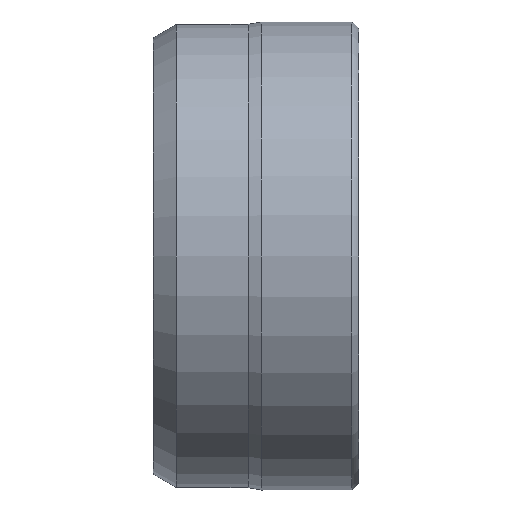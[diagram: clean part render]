
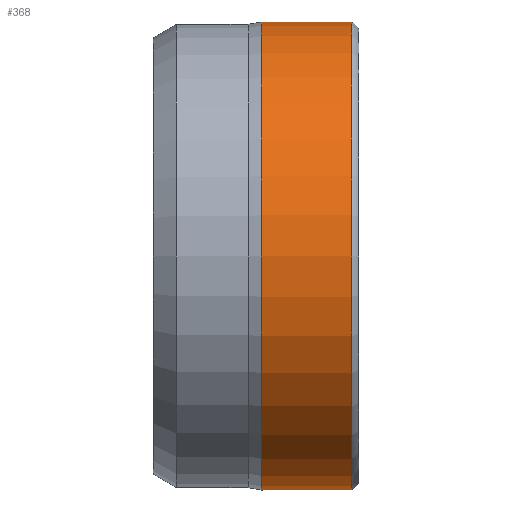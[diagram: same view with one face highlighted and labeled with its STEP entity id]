
A CAD part, left-side view. The second image highlights one B-rep face of the part: STEP entity #368.
In plain terms, the highlighted cylindrical face has radius 10 mm (diameter 20 mm), a partial arc.
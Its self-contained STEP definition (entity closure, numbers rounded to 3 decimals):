
#13 = DIRECTION ( 'NONE',  ( 0., -1., 0. ) ) ;
#33 = EDGE_CURVE ( 'NONE', #125, #258, #119, .T. ) ;
#70 = CARTESIAN_POINT ( 'NONE',  ( 0., 0.313, 0. ) ) ;
#72 = CARTESIAN_POINT ( 'NONE',  ( 0., 4.167, 10. ) ) ;
#79 = CARTESIAN_POINT ( 'NONE',  ( 0., -0.678, 0. ) ) ;
#119 = CIRCLE ( 'NONE', #532, 10. ) ;
#123 = CARTESIAN_POINT ( 'NONE',  ( 0., -0.678, 10. ) ) ;
#125 = VERTEX_POINT ( 'NONE', #500 ) ;
#190 = EDGE_CURVE ( 'NONE', #754, #258, #890, .T. ) ;
#201 = EDGE_CURVE ( 'NONE', #827, #125, #256, .T. ) ;
#230 = CIRCLE ( 'NONE', #271, 10. ) ;
#256 = LINE ( 'NONE', #123, #1007 ) ;
#258 = VERTEX_POINT ( 'NONE', #477 ) ;
#260 = ORIENTED_EDGE ( 'NONE', *, *, #611, .T. ) ;
#271 = AXIS2_PLACEMENT_3D ( 'NONE', #671, #580, #461 ) ;
#360 = CARTESIAN_POINT ( 'NONE',  ( 0., 4.167, -10. ) ) ;
#368 = ADVANCED_FACE ( 'NONE', ( #657 ), #891, .T. ) ;
#461 = DIRECTION ( 'NONE',  ( 0., 0., -1. ) ) ;
#477 = CARTESIAN_POINT ( 'NONE',  ( 0., 0.313, -10. ) ) ;
#500 = CARTESIAN_POINT ( 'NONE',  ( 0., 0.313, 10. ) ) ;
#532 = AXIS2_PLACEMENT_3D ( 'NONE', #70, #989, #892 ) ;
#548 = VECTOR ( 'NONE', #704, 1000. ) ;
#580 = DIRECTION ( 'NONE',  ( 0., -1., 0. ) ) ;
#611 = EDGE_CURVE ( 'NONE', #827, #754, #230, .T. ) ;
#657 = FACE_OUTER_BOUND ( 'NONE', #700, .T. ) ;
#667 = ORIENTED_EDGE ( 'NONE', *, *, #33, .F. ) ;
#671 = CARTESIAN_POINT ( 'NONE',  ( 0., 4.167, 0. ) ) ;
#700 = EDGE_LOOP ( 'NONE', ( #726, #260, #810, #667 ) ) ;
#704 = DIRECTION ( 'NONE',  ( 0., -1., 0. ) ) ;
#718 = AXIS2_PLACEMENT_3D ( 'NONE', #79, #1001, #902 ) ;
#726 = ORIENTED_EDGE ( 'NONE', *, *, #201, .F. ) ;
#754 = VERTEX_POINT ( 'NONE', #360 ) ;
#800 = CARTESIAN_POINT ( 'NONE',  ( 0., -0.678, -10. ) ) ;
#810 = ORIENTED_EDGE ( 'NONE', *, *, #190, .T. ) ;
#827 = VERTEX_POINT ( 'NONE', #72 ) ;
#890 = LINE ( 'NONE', #800, #548 ) ;
#891 = CYLINDRICAL_SURFACE ( 'NONE', #718, 10. ) ;
#892 = DIRECTION ( 'NONE',  ( 0., 0., -1. ) ) ;
#902 = DIRECTION ( 'NONE',  ( 0., 0., -1. ) ) ;
#989 = DIRECTION ( 'NONE',  ( 0., -1., 0. ) ) ;
#1001 = DIRECTION ( 'NONE',  ( 0., -1., 0. ) ) ;
#1007 = VECTOR ( 'NONE', #13, 1000. ) ;
